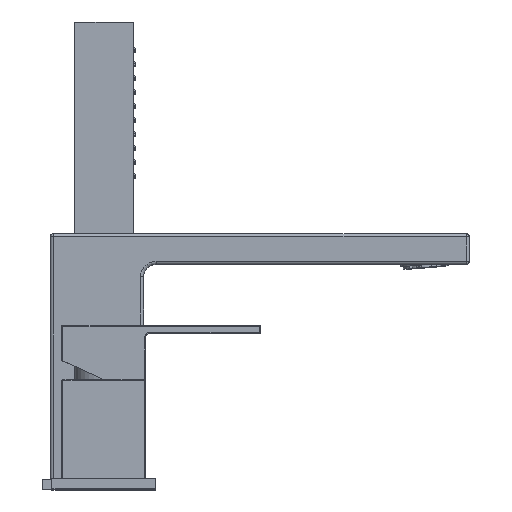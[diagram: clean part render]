
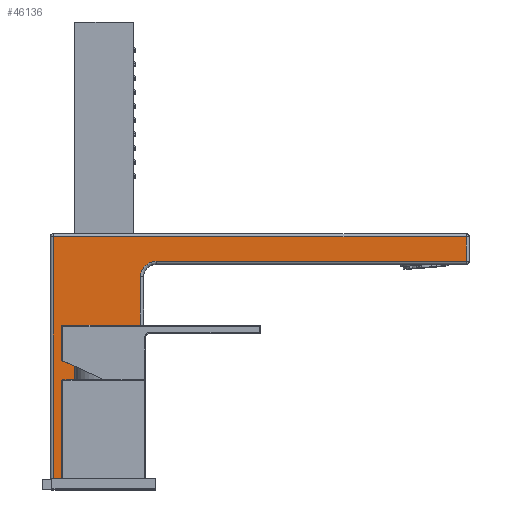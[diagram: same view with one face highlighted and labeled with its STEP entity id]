
A CAD part, top view. The second image highlights one B-rep face of the part: STEP entity #46136.
In plain terms, the highlighted planar face has unit normal (0, 0, 1).
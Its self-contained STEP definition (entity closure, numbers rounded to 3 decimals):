
#54 = EDGE_CURVE ( 'NONE', #42471, #60848, #26465, .T. ) ;
#1846 = DIRECTION ( 'NONE',  ( 0., -1., 0. ) ) ;
#3382 = CARTESIAN_POINT ( 'NONE',  ( 10837.891, 364.198, 46.8 ) ) ;
#3719 = CARTESIAN_POINT ( 'NONE',  ( 10841.011, 369.362, 46.8 ) ) ;
#4712 = LINE ( 'NONE', #63055, #59095 ) ;
#7093 = EDGE_CURVE ( 'NONE', #60848, #35092, #8094, .T. ) ;
#7442 = CARTESIAN_POINT ( 'NONE',  ( 10845.33, 370.729, 46.8 ) ) ;
#7618 = CARTESIAN_POINT ( 'NONE',  ( 10837.921, 364.396, 46.8 ) ) ;
#8094 = LINE ( 'NONE', #23761, #11552 ) ;
#8288 = CARTESIAN_POINT ( 'NONE',  ( 10838.606, 366.57, 46.8 ) ) ;
#8633 = CARTESIAN_POINT ( 'NONE',  ( 10837.845, 363.801, 46.8 ) ) ;
#9640 = FACE_OUTER_BOUND ( 'NONE', #26298, .T. ) ;
#9648 = CARTESIAN_POINT ( 'NONE',  ( 10842.541, 370.192, 46.8 ) ) ;
#9887 = EDGE_CURVE ( 'NONE', #28213, #52293, #54974, .T. ) ;
#10505 = DIRECTION ( 'NONE',  ( 1., 0., 0. ) ) ;
#10903 = VECTOR ( 'NONE', #34459, 1000. ) ;
#11552 = VECTOR ( 'NONE', #28924, 1000. ) ;
#12225 = ORIENTED_EDGE ( 'NONE', *, *, #7093, .T. ) ;
#13205 = CARTESIAN_POINT ( 'NONE',  ( 10841.764, 369.836, 46.8 ) ) ;
#13526 = CARTESIAN_POINT ( 'NONE',  ( 10837.945, 364.538, 46.8 ) ) ;
#14553 = CARTESIAN_POINT ( 'NONE',  ( 10840.854, 369.25, 46.8 ) ) ;
#14717 = CARTESIAN_POINT ( 'NONE',  ( 10869.66, 370.729, 46.8 ) ) ;
#14889 = CARTESIAN_POINT ( 'NONE',  ( 10843.937, 370.599, 46.8 ) ) ;
#15561 = DIRECTION ( 'NONE',  ( 1., 0., 0. ) ) ;
#15896 = CARTESIAN_POINT ( 'NONE',  ( 0., 0., 46.8 ) ) ;
#18132 = CARTESIAN_POINT ( 'NONE',  ( 10837.83, 266.863, 46.8 ) ) ;
#18329 = CARTESIAN_POINT ( 'NONE',  ( 10993.83, 370.729, 46.8 ) ) ;
#19403 = CARTESIAN_POINT ( 'NONE',  ( 10838.28, 365.791, 46.8 ) ) ;
#21100 = CARTESIAN_POINT ( 'NONE',  ( 10843.139, 370.41, 46.8 ) ) ;
#21677 = EDGE_CURVE ( 'NONE', #52293, #42471, #31163, .T. ) ;
#22106 = LINE ( 'NONE', #32495, #10903 ) ;
#23102 = LINE ( 'NONE', #55295, #60106 ) ;
#23627 = CARTESIAN_POINT ( 'NONE',  ( 10842.51, 370.179, 46.8 ) ) ;
#23761 = CARTESIAN_POINT ( 'NONE',  ( 10993.83, 370.729, 46.8 ) ) ;
#23954 = CARTESIAN_POINT ( 'NONE',  ( 10838.312, 365.877, 46.8 ) ) ;
#24964 = CARTESIAN_POINT ( 'NONE',  ( 10841.118, 369.435, 46.8 ) ) ;
#25967 = CARTESIAN_POINT ( 'NONE',  ( 10845.33, 370.729, 46.8 ) ) ;
#26298 = EDGE_LOOP ( 'NONE', ( #61213, #37263, #12225, #33067, #66618, #68337, #37202 ) ) ;
#26465 = LINE ( 'NONE', #14717, #61857 ) ;
#27119 = VERTEX_POINT ( 'NONE', #52466 ) ;
#28213 = VERTEX_POINT ( 'NONE', #18132 ) ;
#28744 = EDGE_CURVE ( 'NONE', #37631, #27119, #23102, .T. ) ;
#28783 = CARTESIAN_POINT ( 'NONE',  ( 10842.364, 370.119, 46.8 ) ) ;
#28924 = DIRECTION ( 'NONE',  ( 0., 1., 0. ) ) ;
#29448 = CARTESIAN_POINT ( 'NONE',  ( 10838.449, 366.226, 46.8 ) ) ;
#29800 = CARTESIAN_POINT ( 'NONE',  ( 10837.935, 364.481, 46.8 ) ) ;
#31163 = B_SPLINE_CURVE_WITH_KNOTS ( 'NONE', 3,
 ( #35015, #66599, #8633, #3382, #7618, #29800, #13526, #51295, #50298, #50955, #39568, #19403, #23954, #45117, #40952, #29448, #8288, #34661, #55803, #45755, #50620, #66931, #40593, #61744, #35378, #14553, #3719, #24964, #67272, #62080, #13205, #55142, #28783, #49963, #23627, #9648, #31859, #21100, #31523, #52300, #36748, #67945, #14889, #36057, #35704, #25967 ),
 .UNSPECIFIED., .F., .F.,
 ( 4, 1, 1, 1, 2, 2, 1, 1, 1, 2, 2, 1, 1, 2, 2, 2, 1, 1, 2, 2, 1, 1, 1, 2, 2, 1, 1, 1, 2, 2, 4 ),
 ( 0., 0.063, 0.094, 0.109, 0.117, 0.125, 0.187, 0.219, 0.234, 0.242, 0.25, 0.312, 0.344, 0.359, 0.375, 0.5, 0.562, 0.594, 0.609, 0.625, 0.687, 0.719, 0.734, 0.742, 0.75, 0.812, 0.844, 0.859, 0.867, 0.875, 1. ),
 .UNSPECIFIED. ) ;
#31523 = CARTESIAN_POINT ( 'NONE',  ( 10843.549, 370.517, 46.8 ) ) ;
#31827 = DIRECTION ( 'NONE',  ( -1., 0., 0. ) ) ;
#31859 = CARTESIAN_POINT ( 'NONE',  ( 10842.795, 370.292, 46.8 ) ) ;
#31917 = CARTESIAN_POINT ( 'NONE',  ( 10796.13, 382.429, 46.8 ) ) ;
#32495 = CARTESIAN_POINT ( 'NONE',  ( 10796.13, 266.863, 46.8 ) ) ;
#33067 = ORIENTED_EDGE ( 'NONE', *, *, #55583, .T. ) ;
#34459 = DIRECTION ( 'NONE',  ( 1., 0., 0. ) ) ;
#34661 = CARTESIAN_POINT ( 'NONE',  ( 10838.819, 366.957, 46.8 ) ) ;
#35015 = CARTESIAN_POINT ( 'NONE',  ( 10837.83, 363.229, 46.8 ) ) ;
#35092 = VERTEX_POINT ( 'NONE', #54857 ) ;
#35378 = CARTESIAN_POINT ( 'NONE',  ( 10840.496, 368.975, 46.8 ) ) ;
#35704 = CARTESIAN_POINT ( 'NONE',  ( 10844.871, 370.729, 46.8 ) ) ;
#36057 = CARTESIAN_POINT ( 'NONE',  ( 10844.416, 370.688, 46.8 ) ) ;
#36291 = VECTOR ( 'NONE', #58827, 1000. ) ;
#36748 = CARTESIAN_POINT ( 'NONE',  ( 10843.845, 370.581, 46.8 ) ) ;
#37202 = ORIENTED_EDGE ( 'NONE', *, *, #9887, .T. ) ;
#37263 = ORIENTED_EDGE ( 'NONE', *, *, #54, .T. ) ;
#37346 = EDGE_CURVE ( 'NONE', #27119, #28213, #22106, .T. ) ;
#37631 = VERTEX_POINT ( 'NONE', #31917 ) ;
#38705 = DIRECTION ( 'NONE',  ( 0., 0., 1. ) ) ;
#39568 = CARTESIAN_POINT ( 'NONE',  ( 10838.209, 365.591, 46.8 ) ) ;
#40593 = CARTESIAN_POINT ( 'NONE',  ( 10839.66, 368.167, 46.8 ) ) ;
#40952 = CARTESIAN_POINT ( 'NONE',  ( 10838.345, 365.961, 46.8 ) ) ;
#42471 = VERTEX_POINT ( 'NONE', #7442 ) ;
#42886 = CARTESIAN_POINT ( 'NONE',  ( 10837.83, 266.863, 46.8 ) ) ;
#45117 = CARTESIAN_POINT ( 'NONE',  ( 10838.334, 365.933, 46.8 ) ) ;
#45755 = CARTESIAN_POINT ( 'NONE',  ( 10838.983, 367.227, 46.8 ) ) ;
#46136 = ADVANCED_FACE ( 'NONE', ( #9640 ), #59521, .T. ) ;
#47011 = AXIS2_PLACEMENT_3D ( 'NONE', #15896, #38705, #15561 ) ;
#49963 = CARTESIAN_POINT ( 'NONE',  ( 10842.451, 370.155, 46.8 ) ) ;
#50298 = CARTESIAN_POINT ( 'NONE',  ( 10837.999, 364.833, 46.8 ) ) ;
#50620 = CARTESIAN_POINT ( 'NONE',  ( 10839.017, 367.279, 46.8 ) ) ;
#50955 = CARTESIAN_POINT ( 'NONE',  ( 10838.082, 365.187, 46.8 ) ) ;
#51295 = CARTESIAN_POINT ( 'NONE',  ( 10837.949, 364.564, 46.8 ) ) ;
#52293 = VERTEX_POINT ( 'NONE', #57319 ) ;
#52300 = CARTESIAN_POINT ( 'NONE',  ( 10843.756, 370.563, 46.8 ) ) ;
#52466 = CARTESIAN_POINT ( 'NONE',  ( 10796.13, 266.863, 46.8 ) ) ;
#54857 = CARTESIAN_POINT ( 'NONE',  ( 10993.83, 382.429, 46.8 ) ) ;
#54974 = LINE ( 'NONE', #42886, #36291 ) ;
#55142 = CARTESIAN_POINT ( 'NONE',  ( 10842.161, 370.029, 46.8 ) ) ;
#55295 = CARTESIAN_POINT ( 'NONE',  ( 10796.13, 382.429, 46.8 ) ) ;
#55583 = EDGE_CURVE ( 'NONE', #35092, #37631, #4712, .T. ) ;
#55803 = CARTESIAN_POINT ( 'NONE',  ( 10838.917, 367.119, 46.8 ) ) ;
#57319 = CARTESIAN_POINT ( 'NONE',  ( 10837.83, 363.229, 46.8 ) ) ;
#58827 = DIRECTION ( 'NONE',  ( 0., 1., 0. ) ) ;
#59095 = VECTOR ( 'NONE', #31827, 1000. ) ;
#59521 = PLANE ( 'NONE',  #47011 ) ;
#60106 = VECTOR ( 'NONE', #1846, 1000. ) ;
#60848 = VERTEX_POINT ( 'NONE', #18329 ) ;
#61213 = ORIENTED_EDGE ( 'NONE', *, *, #21677, .T. ) ;
#61744 = CARTESIAN_POINT ( 'NONE',  ( 10840.209, 368.716, 46.8 ) ) ;
#61857 = VECTOR ( 'NONE', #10505, 1000. ) ;
#62080 = CARTESIAN_POINT ( 'NONE',  ( 10841.438, 369.645, 46.8 ) ) ;
#63055 = CARTESIAN_POINT ( 'NONE',  ( 10993.83, 382.429, 46.8 ) ) ;
#66599 = CARTESIAN_POINT ( 'NONE',  ( 10837.83, 363.459, 46.8 ) ) ;
#66618 = ORIENTED_EDGE ( 'NONE', *, *, #28744, .T. ) ;
#66931 = CARTESIAN_POINT ( 'NONE',  ( 10839.335, 367.766, 46.8 ) ) ;
#67272 = CARTESIAN_POINT ( 'NONE',  ( 10841.173, 369.472, 46.8 ) ) ;
#67945 = CARTESIAN_POINT ( 'NONE',  ( 10843.905, 370.593, 46.8 ) ) ;
#68337 = ORIENTED_EDGE ( 'NONE', *, *, #37346, .T. ) ;
